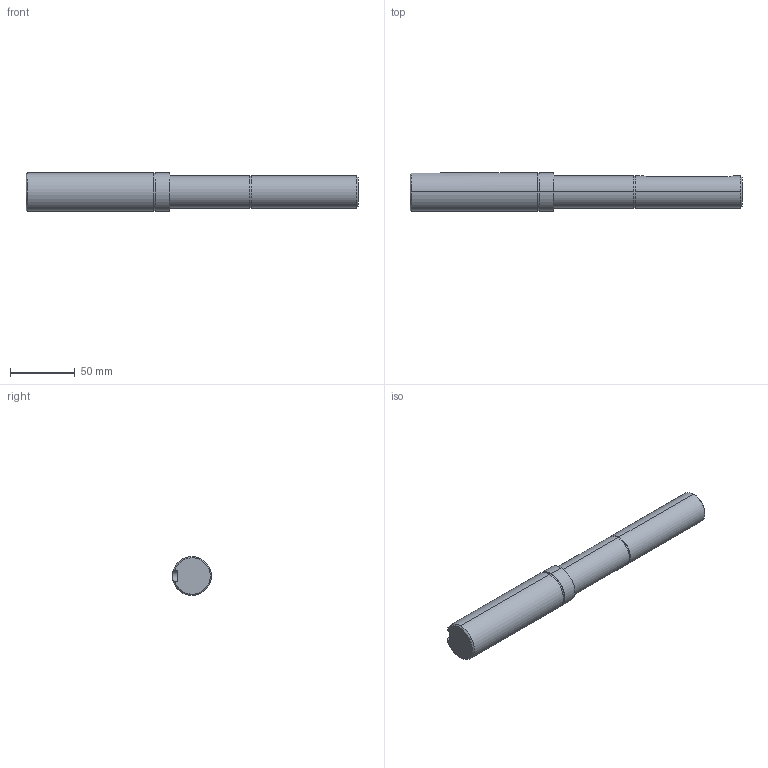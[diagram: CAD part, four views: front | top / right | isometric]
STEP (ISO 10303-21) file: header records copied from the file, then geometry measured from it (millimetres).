
FILE_DESCRIPTION (( 'STEP AP203' ), '1' );
FILE_NAME ('084.814.003-1.STEP', '2013-01-29T13:33:49', ( 'Alusic' ), ( 'Alusic' ), 'SwSTEP 2.0', 'SolidWorks 2011', '' );
FILE_SCHEMA (( 'CONFIG_CONTROL_DESIGN' ));
Length unit declared in the file: millimetre
Products named in the file (1): 084.814.003-1
Bounding box: 255.5 x 30 x 30 mm (x, y, z)
Volume: 145550.4 mm3; surface area: 24370.5 mm2
Topology: 1 solids, 1 shells, 37 faces, 81 edges, 51 vertices
Faces by surface type: cylinder 17, plane 13, cone 7
Entity records: 1180 total; most frequent: CARTESIAN_POINT 271, DIRECTION 187, ORIENTED_EDGE 158, EDGE_CURVE 79, AXIS2_PLACEMENT_3D 75, VERTEX_POINT 51, EDGE_LOOP 44, ADVANCED_FACE 37
